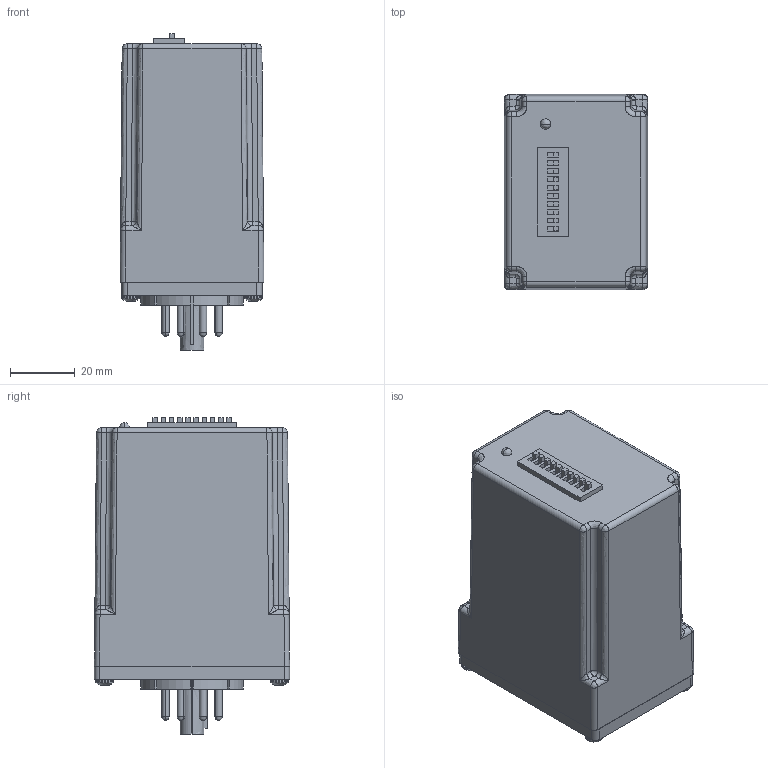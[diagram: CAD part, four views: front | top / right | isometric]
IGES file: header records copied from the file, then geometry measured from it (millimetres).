
Start section: SolidWorks IGES file using analytic representation for surfaces
Global section: file name: C:\Documents and Settings\Joshua\Desktop\eric\090413\TD-8 Single.igs; native system: SolidWorks 2007; preprocessor: SolidWorks 2007; author: Joshua; date: 140904.220628; units: inch
Bounding box: 44.45 x 60.33 x 97.87 mm (x, y, z)
Surface area: 29743.1 mm2 (no closed solid volume)
Topology: 0 solids, 0 shells, 797 faces, 8942 edges, 8872 vertices
Faces by surface type: bspline 447, revolution 350
